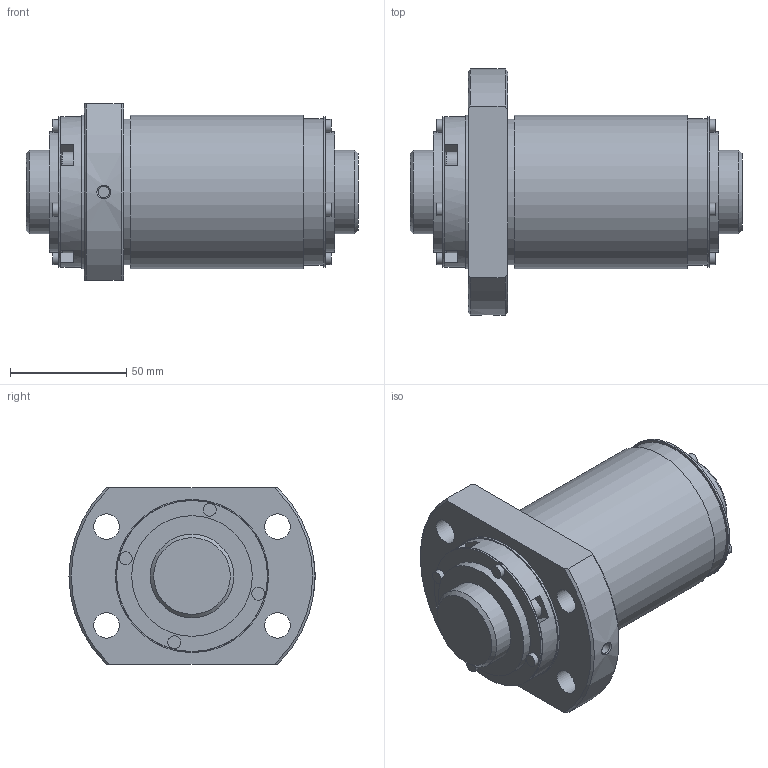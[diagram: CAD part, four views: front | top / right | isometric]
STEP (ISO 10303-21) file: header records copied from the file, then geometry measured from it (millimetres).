
FILE_DESCRIPTION(/* description */ ('STEP AP203'),/* implementation_level */ '2;1');
FILE_NAME(/* name */ 'BLK3636-2.8ZZG1+143LC3_0_1300',/* time_stamp */ '2025-01-16T07:05:03+01:00',/* author */ ('License CC BY-ND 4.0'),/* organization */ ('CADENAS'),/* preprocessor_version */ 'ST-DEVELOPER v19.3',/* originating_system */ 'PARTsolutions',/* authorisation */ ' ');
FILE_SCHEMA (('CONFIG_CONTROL_DESIGN'));
Length unit declared in the file: millimetre
Products named in the file (3): BLK3636-2.8ZZG1+143LC3_0_1300; ZZ0130BLK3636-2.80Shaft; RR0130BLK3636-2.8Nut
Assembly tree (2 placements, depth 2):
  BLK3636-2.8ZZG1+143LC3_0_1300
    ZZ0130BLK3636-2.80Shaft
    RR0130BLK3636-2.8Nut
Bounding box: 143 x 106 x 76 mm (x, y, z)
Volume: 483353.4 mm3; surface area: 76998.7 mm2
Topology: 2 solids, 2 shells, 154 faces, 343 edges, 214 vertices
Faces by surface type: plane 95, cylinder 38, cone 17, torus 4
Full cylindrical faces by diameter (mm): 4.5 x4, 4.917 x1, 5.5 x8, 9.45 x4, 11 x4, 36 x2, 52 x2, 62.7 x1, 63 x1, 65 x3, 66 x2
Entity records: 4036 total; most frequent: CARTESIAN_POINT 769, DIRECTION 686, ORIENTED_EDGE 558, AXIS2_PLACEMENT_3D 283, EDGE_CURVE 279, FACE_BOUND 238, EDGE_LOOP 234, VERTEX_POINT 203
